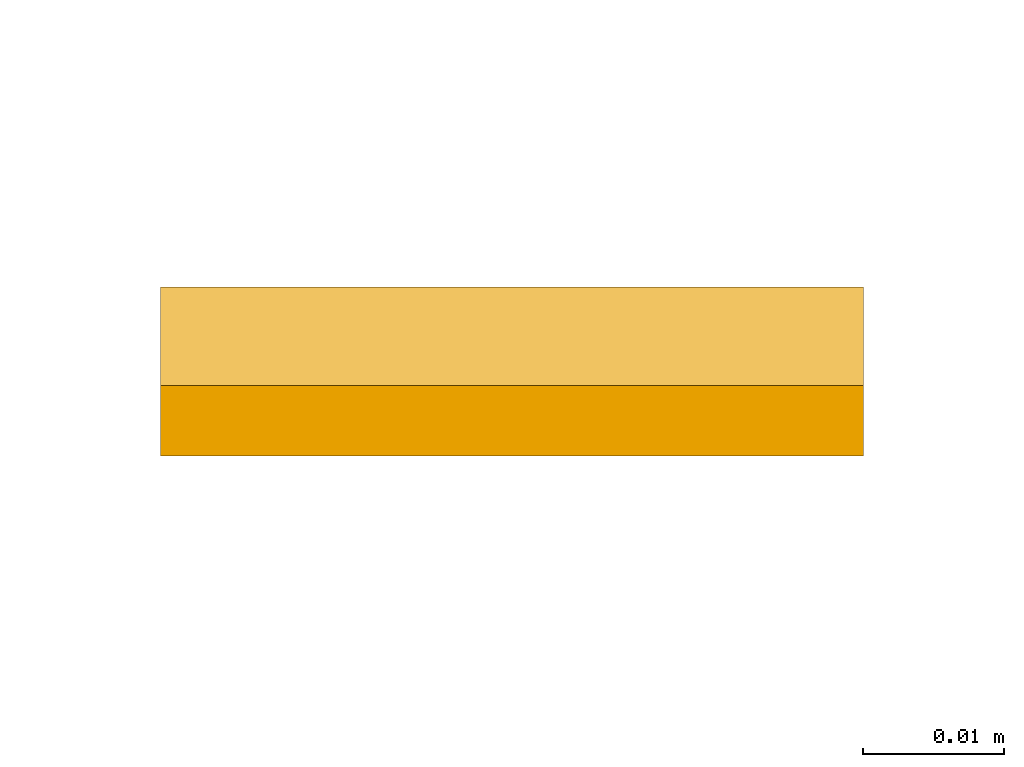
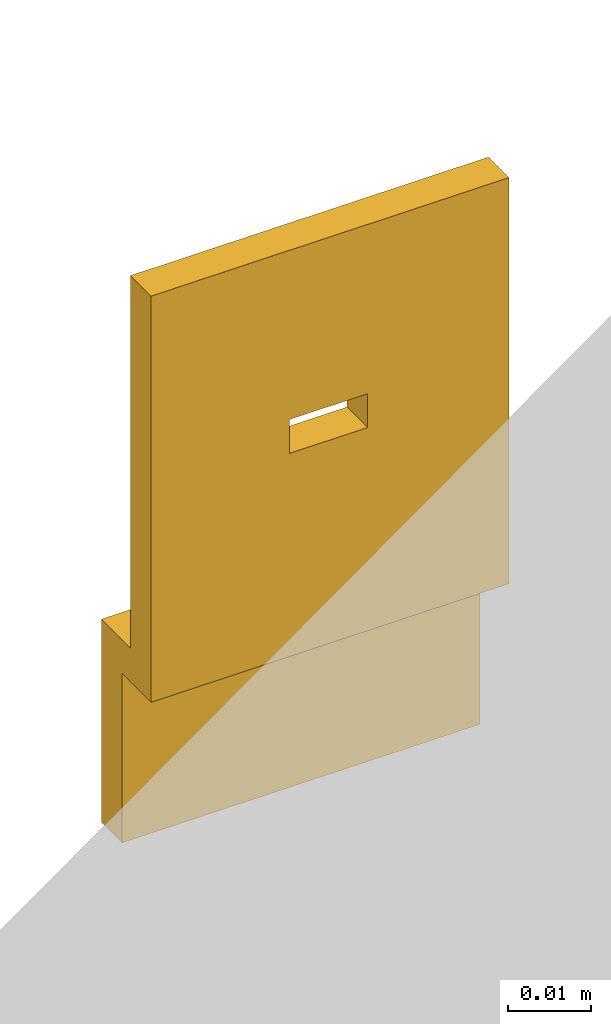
# One storey, part 2 of 2: 1 door, 1 opening.
"""IFC2X3 building model written with IfcOpenShell, lengths in feet."""

from ifc_helpers import new_model, entity, si_unit, converted_unit, derived_unit, direction, frame, frame_2d, origin, place, context, subcontext, project, spatial, polyline, circle_curve, parameter, trimmed, segment, composite_curve, outline, extrude, source, transform, mapped, type_object, type_shapes, element, save


model = new_model("IFC2X3")

# Units and contexts
model_context = context("Model", 3, precision=0.0001, world=origin(), true_north=direction((6.12303176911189e-17, 1.0)))
body_context = subcontext(model_context, "Body", "Model", "MODEL_VIEW")
ifc_project = project(units=[converted_unit("LENGTHUNIT", "FOOT", entity("IfcRatioMeasure", 0.3048), si_unit("LENGTHUNIT", "METRE"), dimensions=[1, 0, 0, 0, 0, 0, 0]), converted_unit("AREAUNIT", "SQUARE FOOT", entity("IfcRatioMeasure", 0.09290304), si_unit("AREAUNIT", "SQUARE_METRE"), dimensions=[2, 0, 0, 0, 0, 0, 0]), converted_unit("VOLUMEUNIT", "CUBIC FOOT", entity("IfcRatioMeasure", 0.028316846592), si_unit("VOLUMEUNIT", "CUBIC_METRE"), dimensions=[3, 0, 0, 0, 0, 0, 0]), converted_unit("PLANEANGLEUNIT", "DEGREE", entity("IfcRatioMeasure", 0.0174532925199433), si_unit("PLANEANGLEUNIT", "RADIAN"), dimensions=[0, 0, 0, 0, 0, 0, 0]), si_unit("MASSUNIT", "GRAM", prefix="KILO"), derived_unit("MASSDENSITYUNIT", [(si_unit("MASSUNIT", "GRAM", prefix="KILO"), 1), (si_unit("LENGTHUNIT", "METRE"), -3)]), si_unit("TIMEUNIT", "SECOND"), si_unit("FREQUENCYUNIT", "HERTZ"), si_unit("THERMODYNAMICTEMPERATUREUNIT", "DEGREE_CELSIUS"), derived_unit("THERMALTRANSMITTANCEUNIT", [(si_unit("MASSUNIT", "GRAM", prefix="KILO"), 1), (si_unit("THERMODYNAMICTEMPERATUREUNIT", "KELVIN"), -1), (si_unit("TIMEUNIT", "SECOND"), -3)]), derived_unit("VOLUMETRICFLOWRATEUNIT", [(si_unit("LENGTHUNIT", "METRE"), 3), (si_unit("TIMEUNIT", "SECOND"), -1)]), si_unit("ELECTRICCURRENTUNIT", "AMPERE"), si_unit("ELECTRICVOLTAGEUNIT", "VOLT"), si_unit("POWERUNIT", "WATT"), si_unit("FORCEUNIT", "NEWTON"), si_unit("ILLUMINANCEUNIT", "LUX"), si_unit("LUMINOUSFLUXUNIT", "LUMEN"), si_unit("LUMINOUSINTENSITYUNIT", "CANDELA"), derived_unit("USERDEFINED", [(si_unit("MASSUNIT", "GRAM", prefix="KILO"), -1), (si_unit("LENGTHUNIT", "METRE"), -2), (si_unit("TIMEUNIT", "SECOND"), 3), (si_unit("LUMINOUSFLUXUNIT", "LUMEN"), 1)]), derived_unit("LINEARVELOCITYUNIT", [(si_unit("LENGTHUNIT", "METRE"), 1), (si_unit("TIMEUNIT", "SECOND"), -1)]), si_unit("PRESSUREUNIT", "PASCAL"), derived_unit("USERDEFINED", [(si_unit("LENGTHUNIT", "METRE"), -2), (si_unit("MASSUNIT", "GRAM", prefix="KILO"), 1), (si_unit("TIMEUNIT", "SECOND"), -2)])], contexts=[model_context])

# Site, building, storey
site_placement = place(None, origin())
site = spatial("IfcSite", under=ifc_project, at=site_placement, Name="Default", CompositionType="ELEMENT")
building_placement = place(site_placement, origin())
building = spatial("IfcBuilding", under=site, at=building_placement, CompositionType="ELEMENT")
storey_placement = place(building_placement, origin())
storey = spatial("IfcBuildingStorey", under=building, at=storey_placement, Name="Level 1", CompositionType="ELEMENT", Elevation=0.0)

# Door, opening
door_style = type_object("IfcDoorStyle", Name="dline_Hardware_PullHandles_CylinderPull", ConstructionType="NOTDEFINED", OperationType="NOTDEFINED", ParameterTakesPrecedence=False, Sizeable=False)
shared_shape = source(origin(), body_context, "Body", "SweptSolid", [
    extrude(outline(polyline([(-0.0328083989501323, -0.0196850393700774), (0.164041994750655, -0.0196850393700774), (0.164041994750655, -0.00328083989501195), (-0.0164041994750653, -0.00328083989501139), (-0.0164041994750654, 0.0196850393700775), (-0.114829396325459, 0.0196850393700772), (-0.114829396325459, 0.00328083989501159), (-0.0328083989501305, 0.00328083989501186), (-0.0328083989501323, -0.0196850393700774)])), frame((-0.0820209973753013, -0.0656167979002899, 0.0196850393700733), z_axis=(1.0, 0.0, 0.0), x_axis=(0.0, 1.0, 0.0)), (0.0, 0.0, 1.0), 0.164041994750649),
])
type_shapes(door_style, [shared_shape])
door_placement = place(storey_placement, frame((-4.26394028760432, 4.98358992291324, 4.0), z_axis=(0.0, 1.0, 0.0), x_axis=(-1.0, 0.0, 0.0)))
door = element("IfcDoor", 1, at=door_placement, inside=storey, type_object=door_style, Name="14401002290:dline_Hardware_PullHandles_CylinderPull", ObjectType="14401002290:dline_Hardware_PullHandles_CylinderPull", OverallHeight=0.213254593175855, OverallWidth=0.574146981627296, context=body_context, shape_type="MappedRepresentation", body=[
    mapped(shared_shape, transform((0.0, 0.0, 0.0), scale=1.0)),
])
opening_placement = place(door_placement, origin())
element("IfcOpeningElement", 2, at=opening_placement, cuts=door, Name="14401002290:dline_Hardware_PullHandles_CylinderPull:1", ObjectType="Opening", context=body_context, shape_type="SweptSolid", body=[
    extrude(outline(composite_curve([segment(polyline([(-0.0244132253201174, -0.0178837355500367), (0.0240270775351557, -0.0178837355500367)]), True, "CONTINUOUS"), segment(trimmed(circle_curve(frame_2d((0.0519097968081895, -0.0005937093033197), x_axis=(1.0, 0.0)), 0.0328083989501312), [parameter(211.802980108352)], [parameter(145.723129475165)], True, "PARAMETER"), True, "CONTINUOUS"), segment(polyline([(0.0247993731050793, 0.0178837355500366), (-0.0244132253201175, 0.0178837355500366)]), True, "CONTINUOUS"), segment(trimmed(circle_curve(frame_2d((-0.0244132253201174, 0.0), x_axis=(1.0, 0.0)), 0.0178837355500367), [parameter(90.0000000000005)], [parameter(270.0)], True, "PARAMETER"), True, "CONTINUOUS")], self_intersect=False)), frame((0.0005937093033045, 0.0, -0.0051744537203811), z_axis=(0.0, 1.0, 0.0), x_axis=(0.0, 0.0, 1.0)), (0.0, 0.0, 1.0), 0.0164041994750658),
])

save(model, "model.ifc")
